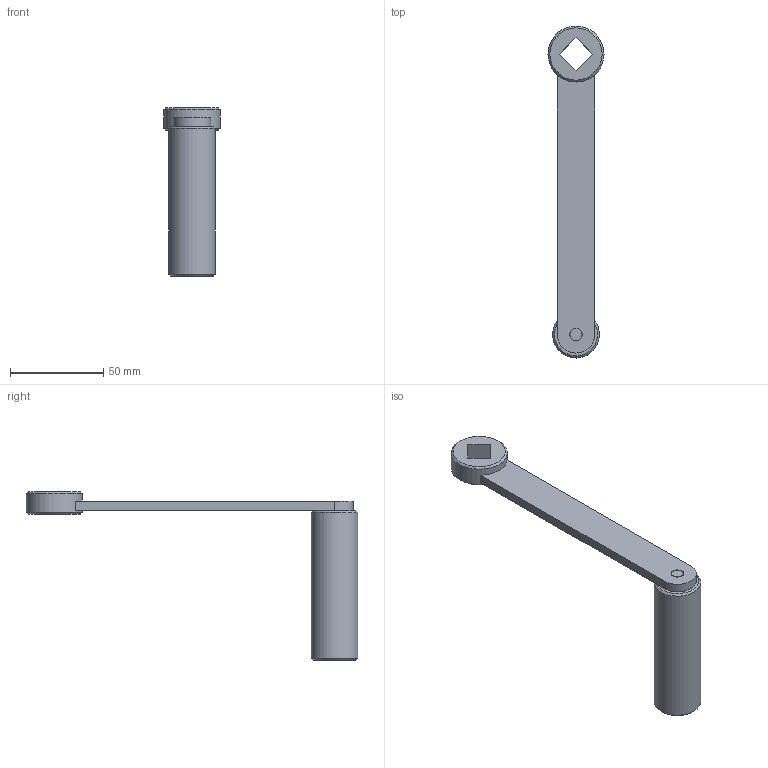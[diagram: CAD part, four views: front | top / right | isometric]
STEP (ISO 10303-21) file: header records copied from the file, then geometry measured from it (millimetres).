
FILE_DESCRIPTION(/* description */ ('CRANK HANDLE'),/* implementation_level */ '2;1');
FILE_NAME(/* name */ 'C:\Users\Apardo\Documents\Proyectos\Dietrich\Proyecto 1\PLATE ROLLING MACHINE\STEP\2 CRANK HANDLE.stp',/* time_stamp */ '2020-11-03T20:47:02-04:00',/* author */ ('Apardo'),/* organization */ ('20'),/* preprocessor_version */ 'ST-DEVELOPER v18',/* originating_system */ 'Autodesk Inventor 2020',/* authorisation */ '');
FILE_SCHEMA (('AUTOMOTIVE_DESIGN { 1 0 10303 214 3 1 1 }'));
Length unit declared in the file: millimetre
Products named in the file (5): CRANK HANDLE; crank handle1; crank handle2; crank handle3; ANSI B18.3.1M - M8x1,25 x 70, DFHSHCS2HM
Assembly tree (4 placements, depth 2):
  CRANK HANDLE
    crank handle1
    crank handle2
    crank handle3
    ANSI B18.3.1M - M8x1,25 x 70, DFHSHCS2HM
Bounding box: 30 x 177.49 x 90 mm (x, y, z)
Volume: 58316.5 mm3; surface area: 22123.5 mm2
Topology: 4 solids, 4 shells, 62 faces, 189 edges, 130 vertices
Faces by surface type: plane 28, cylinder 27, cone 7
Full cylindrical faces by diameter (mm): 1.35 x6, 6.647 x1, 8 x1, 8.5 x1, 13 x1, 14 x1, 25 x1, 30 x1
Entity records: 2639 total; most frequent: CARTESIAN_POINT 722, ORIENTED_EDGE 376, DIRECTION 353, EDGE_CURVE 188, AXIS2_PLACEMENT_3D 132, VERTEX_POINT 130, LINE 89, VECTOR 89
